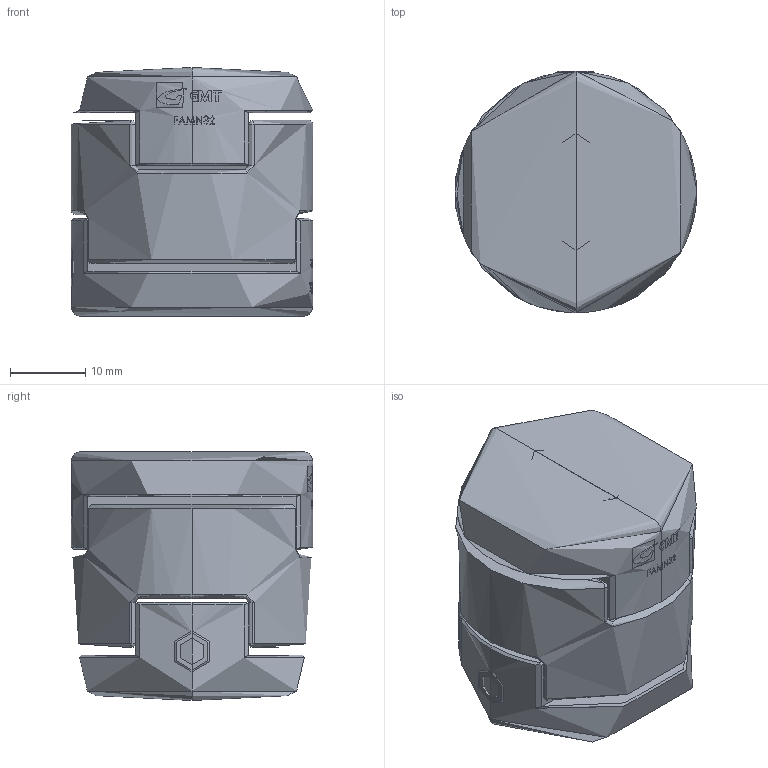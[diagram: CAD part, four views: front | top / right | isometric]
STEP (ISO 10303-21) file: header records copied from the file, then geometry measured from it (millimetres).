
FILE_DESCRIPTION (( 'STEP AP203' ), '1' );
FILE_NAME ('FAMN32.STEP', '2008-04-05T07:08:32', ( '陳志豪' ), ( '高明鐵企業股份有限公司' ), 'SwSTEP 2.0', 'SolidWorks 2007', '' );
FILE_SCHEMA (( 'CONFIG_CONTROL_DESIGN' ));
Length unit declared in the file: millimetre
Products named in the file (1): FAMN32
Bounding box: 32 x 32 x 33 mm (x, y, z)
Topology: 0 solids, 6 shells, 271 faces, 836 edges, 572 vertices
Faces by surface type: bspline 94, plane 93, cylinder 68, cone 16
Full cylindrical faces by diameter (mm): 1 x2
Entity records: 14327 total; most frequent: CARTESIAN_POINT 7965, ORIENTED_EDGE 1587, DIRECTION 831, EDGE_CURVE 826, VERTEX_POINT 572, B_SPLINE_CURVE_WITH_KNOTS 468, EDGE_LOOP 298, AXIS2_PLACEMENT_3D 295
